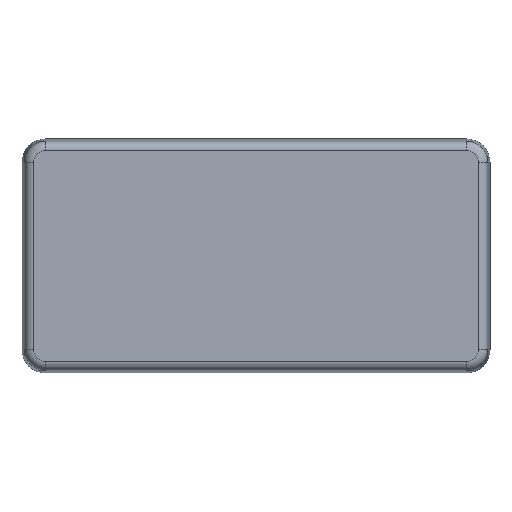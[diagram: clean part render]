
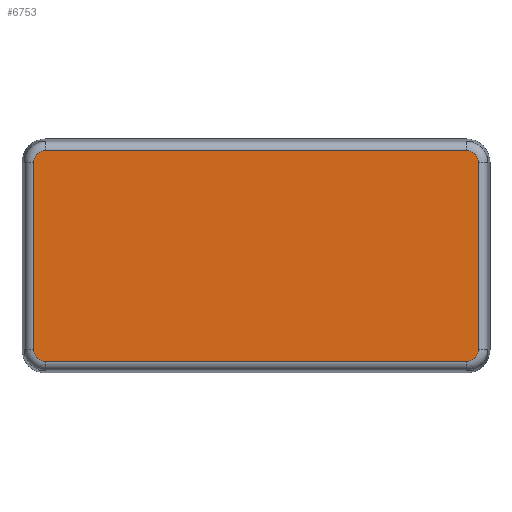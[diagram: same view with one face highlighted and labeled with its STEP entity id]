
A CAD part, front view. The second image highlights one B-rep face of the part: STEP entity #6753.
In plain terms, the highlighted planar face has unit normal (0, -1, 0) as drawn and (0, 0, -1) by its records, which use the part's own axes.
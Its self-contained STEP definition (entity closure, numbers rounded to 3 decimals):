
#90=CIRCLE('',#7073,2.489);
#94=CIRCLE('',#7078,2.489);
#98=CIRCLE('',#7085,2.489);
#102=CIRCLE('',#7090,2.489);
#723=FACE_OUTER_BOUND('',#1134,.T.);
#1134=EDGE_LOOP('',(#5477,#5478,#5479,#5480,#5481,#5482,#5483,#5484));
#1730=LINE('',#11495,#2336);
#1732=LINE('',#11515,#2338);
#1735=LINE('',#11522,#2341);
#1737=LINE('',#11537,#2343);
#2336=VECTOR('',#8068,40.);
#2338=VECTOR('',#8092,90.);
#2341=VECTOR('',#8099,90.);
#2343=VECTOR('',#8119,40.);
#3111=VERTEX_POINT('',#11492);
#3112=VERTEX_POINT('',#11494);
#3115=VERTEX_POINT('',#11501);
#3116=VERTEX_POINT('',#11506);
#3119=VERTEX_POINT('',#11513);
#3120=VERTEX_POINT('',#11518);
#3123=VERTEX_POINT('',#11525);
#3124=VERTEX_POINT('',#11530);
#3926=EDGE_CURVE('',#3111,#3112,#1730,.T.);
#3930=EDGE_CURVE('',#3115,#3111,#90,.T.);
#3934=EDGE_CURVE('',#3112,#3116,#94,.T.);
#3936=EDGE_CURVE('',#3119,#3115,#1732,.T.);
#3940=EDGE_CURVE('',#3116,#3120,#1735,.T.);
#3942=EDGE_CURVE('',#3123,#3119,#98,.T.);
#3946=EDGE_CURVE('',#3120,#3124,#102,.T.);
#3948=EDGE_CURVE('',#3124,#3123,#1737,.T.);
#5477=ORIENTED_EDGE('',*,*,#3926,.F.);
#5478=ORIENTED_EDGE('',*,*,#3930,.F.);
#5479=ORIENTED_EDGE('',*,*,#3936,.F.);
#5480=ORIENTED_EDGE('',*,*,#3942,.F.);
#5481=ORIENTED_EDGE('',*,*,#3948,.F.);
#5482=ORIENTED_EDGE('',*,*,#3946,.F.);
#5483=ORIENTED_EDGE('',*,*,#3940,.F.);
#5484=ORIENTED_EDGE('',*,*,#3934,.F.);
#6476=PLANE('',#7098);
#6753=ADVANCED_FACE('',(#723),#6476,.F.);
#7073=AXIS2_PLACEMENT_3D('',#11503,#8076,#8077);
#7078=AXIS2_PLACEMENT_3D('',#11510,#8086,#8087);
#7085=AXIS2_PLACEMENT_3D('',#11527,#8104,#8105);
#7090=AXIS2_PLACEMENT_3D('',#11534,#8114,#8115);
#7098=AXIS2_PLACEMENT_3D('',#11556,#8139,#8140);
#8068=DIRECTION('',(0.,-1.,0.));
#8076=DIRECTION('center_axis',(0.,0.,1.));
#8077=DIRECTION('ref_axis',(-0.707,0.707,0.));
#8086=DIRECTION('center_axis',(0.,0.,1.));
#8087=DIRECTION('ref_axis',(-0.707,-0.707,0.));
#8092=DIRECTION('',(-1.,0.,0.));
#8099=DIRECTION('',(1.,0.,0.));
#8104=DIRECTION('center_axis',(0.,0.,1.));
#8105=DIRECTION('ref_axis',(0.707,0.707,0.));
#8114=DIRECTION('center_axis',(0.,0.,1.));
#8115=DIRECTION('ref_axis',(0.707,-0.707,0.));
#8119=DIRECTION('',(0.,1.,0.));
#8139=DIRECTION('center_axis',(0.,0.,1.));
#8140=DIRECTION('ref_axis',(1.,0.,0.));
#11492=CARTESIAN_POINT('',(-47.489,20.,-21.5));
#11494=CARTESIAN_POINT('',(-47.489,-20.,-21.5));
#11495=CARTESIAN_POINT('',(-47.489,10.,-21.5));
#11501=CARTESIAN_POINT('',(-45.,22.489,-21.5));
#11503=CARTESIAN_POINT('Origin',(-45.,20.,-21.5));
#11506=CARTESIAN_POINT('',(-45.,-22.489,-21.5));
#11510=CARTESIAN_POINT('Origin',(-45.,-20.,-21.5));
#11513=CARTESIAN_POINT('',(45.,22.489,-21.5));
#11515=CARTESIAN_POINT('',(0.,22.489,-21.5));
#11518=CARTESIAN_POINT('',(45.,-22.489,-21.5));
#11522=CARTESIAN_POINT('',(-22.5,-22.489,-21.5));
#11525=CARTESIAN_POINT('',(47.489,20.,-21.5));
#11527=CARTESIAN_POINT('Origin',(45.,20.,-21.5));
#11530=CARTESIAN_POINT('',(47.489,-20.,-21.5));
#11534=CARTESIAN_POINT('Origin',(45.,-20.,-21.5));
#11537=CARTESIAN_POINT('',(47.489,0.,-21.5));
#11556=CARTESIAN_POINT('Origin',(0.,0.,
-21.5));
